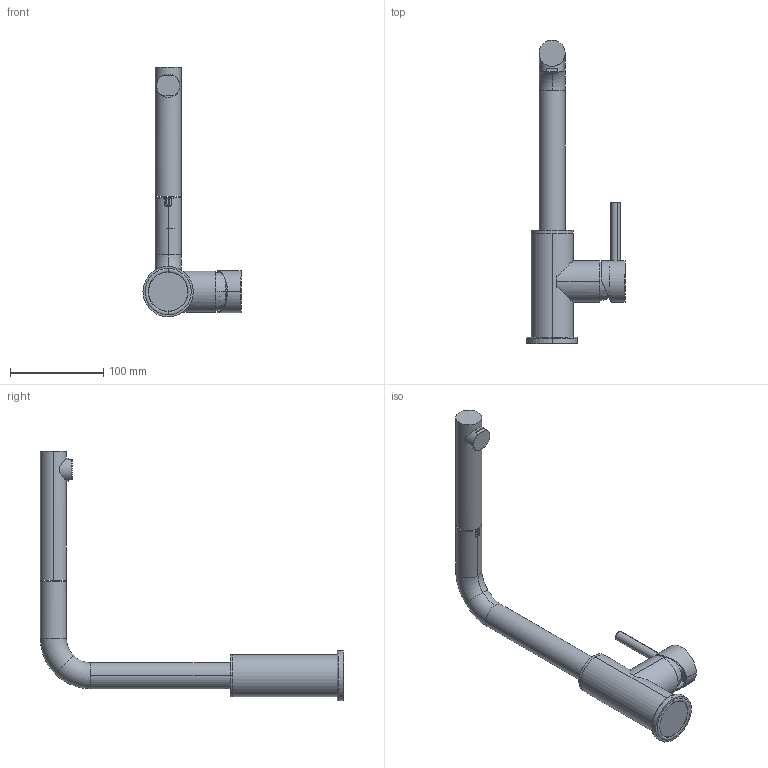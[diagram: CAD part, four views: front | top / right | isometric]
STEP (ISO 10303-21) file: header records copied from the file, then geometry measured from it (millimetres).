
FILE_DESCRIPTION((''),'2;1');
FILE_NAME('F7025BINOX','2021-09-03T08:28:05',('fabriziov'),(''),'CREO PARAMETRIC BY PTC INC, 2021184','CREO PARAMETRIC BY PTC INC, 2021184','');
FILE_SCHEMA(('CONFIG_CONTROL_DESIGN'));
Length unit declared in the file: millimetre
Products named in the file (1): F7025BINOX
Bounding box: 105.45 x 326 x 268.5 mm (x, y, z)
Volume: 192004.7 mm3; surface area: 138389.7 mm2
Topology: 3 solids, 3 shells, 279 faces, 699 edges, 451 vertices
Faces by surface type: cylinder 142, plane 79, torus 24, cone 24, bspline 10
Entity records: 16873 total; most frequent: CARTESIAN_POINT 10314, ORIENTED_EDGE 1398, DIRECTION 1309, EDGE_CURVE 699, AXIS2_PLACEMENT_3D 538, VERTEX_POINT 451, EDGE_LOOP 312, FACE_OUTER_BOUND 279
